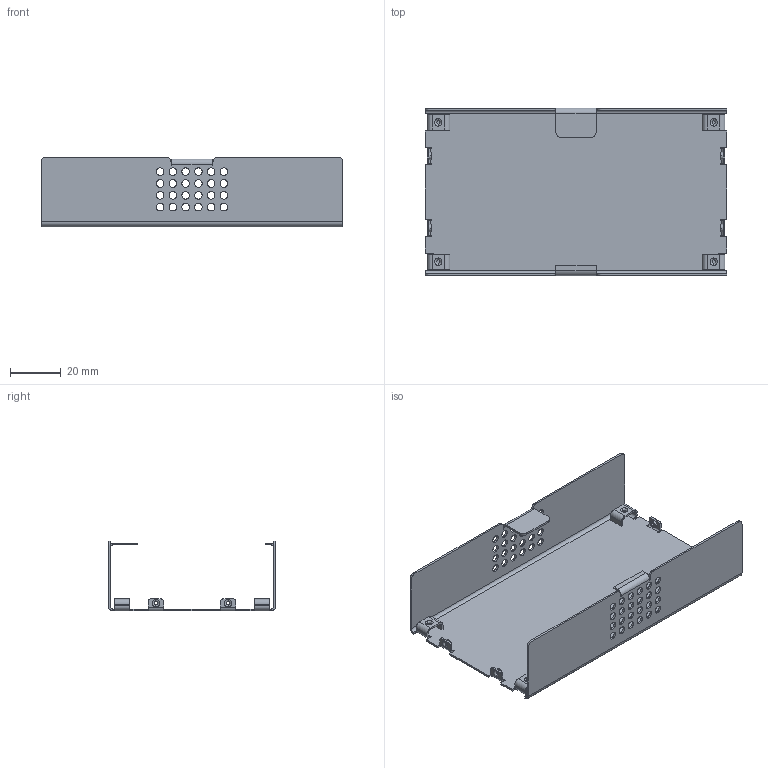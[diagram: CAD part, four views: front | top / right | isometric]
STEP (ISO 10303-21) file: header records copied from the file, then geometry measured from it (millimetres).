
FILE_DESCRIPTION((''),'2;1');
FILE_NAME('ENCLOSURE_BASE','2026-09-23T',('Mahadev'),(''),'CREO PARAMETRIC BY PTC INC, 2016050','CREO PARAMETRIC BY PTC INC, 2016050','');
FILE_SCHEMA(('CONFIG_CONTROL_DESIGN'));
Length unit declared in the file: millimetre
Products named in the file (1): ENCLOSURE_BASE
Bounding box: 118.62 x 65.81 x 27.48 mm (x, y, z)
Volume: 10452.8 mm3; surface area: 29279 mm2
Topology: 1 solids, 1 shells, 416 faces, 1044 edges, 638 vertices
Faces by surface type: plane 214, cylinder 186, torus 16
Entity records: 12604 total; most frequent: DIRECTION 2282, CARTESIAN_POINT 2098, ORIENTED_EDGE 2088, EDGE_CURVE 1044, AXIS2_PLACEMENT_3D 822, VECTOR 638, LINE 638, VERTEX_POINT 638
